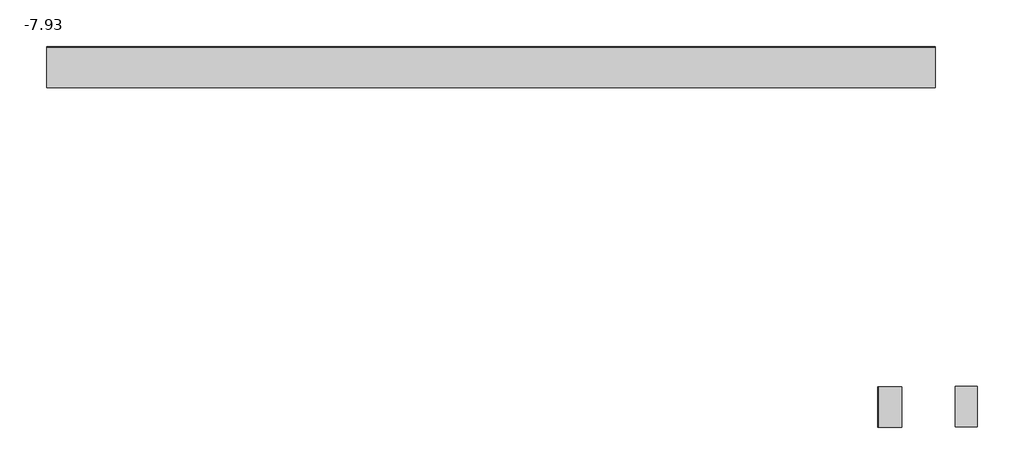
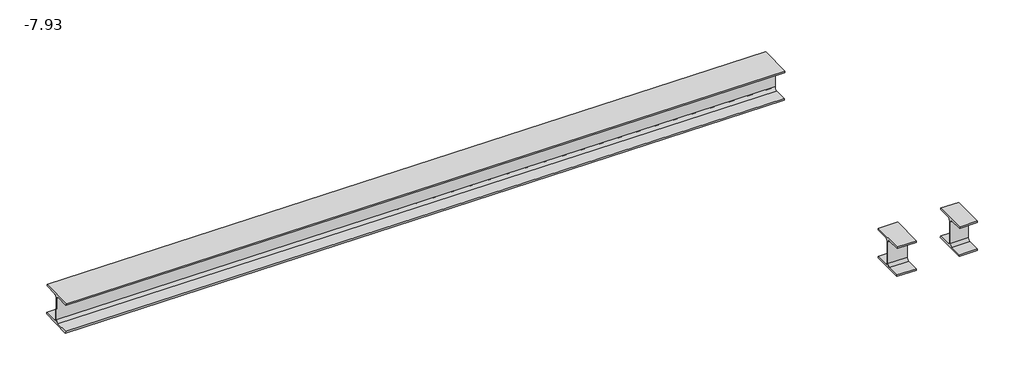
# One storey, incomplete: 3 beams.
"""IFC4 building model written with IfcOpenShell, lengths in millimetres."""

from ifc_helpers import new_model, si_unit, origin, place, context, project, spatial, transform, mapped, element, save
from components import hea220_1345f282, hea220_8597afc0, hea220_396262f0

model = new_model("IFC4")

# Units and contexts
model_context = context("Model", 3, world=origin())
ifc_project = project(units=[si_unit("LENGTHUNIT", "METRE", prefix="MILLI")], contexts=[model_context])

# Site, building, storey
site = spatial("IfcSite", under=ifc_project)
building = spatial("IfcBuilding", under=site)
storey = spatial("IfcBuildingStorey", under=building, Name="-7.93", Elevation=-865.3480391)

# Beams
placement = place(None, origin())
hea220_shape = hea220_1345f282(model_context)
element("IfcBeam", 1, ObjectType="HE-A : HEA220", at=placement, inside=storey, context=model_context, shape_type="MappedRepresentation", body=[
    mapped(hea220_shape, transform((83008.7574883, 26064.5246422, -915.1707152), x_axis=(-0.9999741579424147, -6.569127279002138e-05, 0.007188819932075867), y_axis=(-5.214987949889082e-05, -0.9998656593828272, -0.016390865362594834), z_axis=(0.007188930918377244, -0.016390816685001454, 0.9998398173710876))),
])
hea220_2_shape = hea220_8597afc0(model_context)
element("IfcBeam", 2, ObjectType="HE-A : HEA220", at=placement, inside=storey, context=model_context, shape_type="MappedRepresentation", body=[
    mapped(hea220_2_shape, transform((85176.4240361, 24216.5524503, -958.2992986), x_axis=(0.9999826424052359, -7.476964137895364e-05, -0.005891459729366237), y_axis=(7.476822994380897e-05, 0.9999999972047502, -4.5982199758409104e-07), z_axis=(0.005891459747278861, 1.9320000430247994e-08, 0.9999826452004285))),
])
hea220_3_shape = hea220_396262f0(model_context)
element("IfcBeam", 3, ObjectType="HE-A : HEA220", at=placement, inside=storey, context=model_context, shape_type="MappedRepresentation", body=[
    mapped(hea220_3_shape, transform((85591.3598132, 24216.9024167, -961.8279569), x_axis=(0.9999815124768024, -7.694383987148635e-05, -0.006080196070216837), y_axis=(7.694238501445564e-05, 0.999999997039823, -4.731925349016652e-07), z_axis=(0.006080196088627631, 5.358999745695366e-09, 0.9999815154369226))),
])

save(model, "model.ifc")
